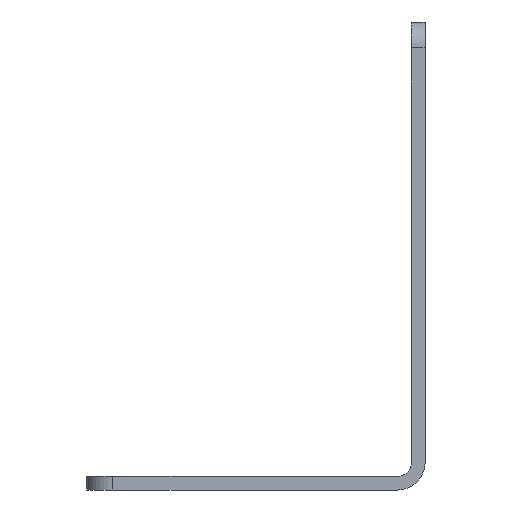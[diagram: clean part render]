
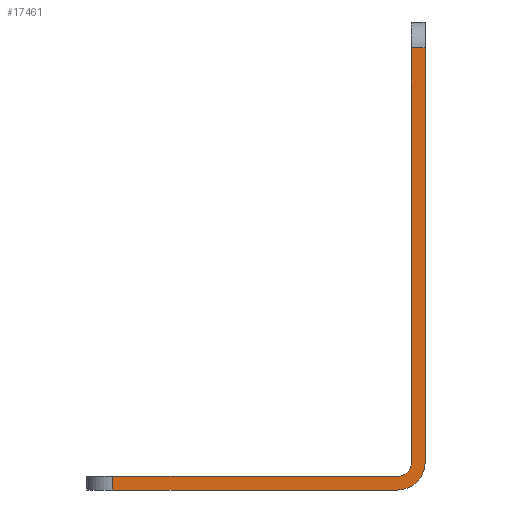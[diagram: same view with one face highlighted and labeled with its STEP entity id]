
A CAD part, left-side view. The second image highlights one B-rep face of the part: STEP entity #17461.
In plain terms, the highlighted planar face has unit normal (-1, 0, 0).
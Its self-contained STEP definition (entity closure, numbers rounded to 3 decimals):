
#3873=CARTESIAN_POINT('',(-148.329,36.418,-1.82));
#3874=VERTEX_POINT('',#3873);
#3881=CARTESIAN_POINT('',(-148.329,36.418,94.));
#3882=VERTEX_POINT('',#3881);
#3883=CARTESIAN_POINT('',(-148.329,36.418,-1.82));
#3884=DIRECTION('',(0.,0.,1.));
#3885=VECTOR('',#3884,95.82);
#3886=LINE('',#3883,#3885);
#3887=EDGE_CURVE('',#3874,#3882,#3886,.T.);
#12422=CARTESIAN_POINT('',(-148.329,33.238,94.));
#12423=VERTEX_POINT('',#12422);
#12431=CARTESIAN_POINT('',(-148.329,33.238,-1.82));
#12432=VERTEX_POINT('',#12431);
#12433=CARTESIAN_POINT('',(-148.329,33.238,-1.82));
#12434=DIRECTION('',(-0.,0.,1.));
#12435=VECTOR('',#12434,95.82);
#12436=LINE('',#12433,#12435);
#12437=EDGE_CURVE('',#12432,#12423,#12436,.T.);
#17123=CARTESIAN_POINT('',(-148.329,105.418,-5.));
#17124=VERTEX_POINT('',#17123);
#17125=CARTESIAN_POINT('',(-148.329,39.598,-5.));
#17126=VERTEX_POINT('',#17125);
#17127=CARTESIAN_POINT('',(-148.329,105.418,-5.));
#17128=DIRECTION('',(0.,-1.,0.));
#17129=VECTOR('',#17128,65.82);
#17130=LINE('',#17127,#17129);
#17131=EDGE_CURVE('',#17124,#17126,#17130,.T.);
#17164=CARTESIAN_POINT('',(-148.329,105.418,-8.18));
#17165=VERTEX_POINT('',#17164);
#17173=CARTESIAN_POINT('',(-148.329,105.418,-8.18));
#17174=DIRECTION('',(0.,0.,1.));
#17175=VECTOR('',#17174,3.18);
#17176=LINE('',#17173,#17175);
#17177=EDGE_CURVE('',#17165,#17124,#17176,.T.);
#17199=CARTESIAN_POINT('',(-148.329,39.598,-8.18));
#17200=VERTEX_POINT('',#17199);
#17207=CARTESIAN_POINT('',(-148.329,105.418,-8.18));
#17208=DIRECTION('',(0.,-1.,0.));
#17209=VECTOR('',#17208,65.82);
#17210=LINE('',#17207,#17209);
#17211=EDGE_CURVE('',#17165,#17200,#17210,.T.);
#17223=CARTESIAN_POINT('',(-148.329,39.598,-1.82));
#17224=DIRECTION('',(1.,0.,-0.));
#17225=DIRECTION('',(0.,-0.,-1.));
#17226=AXIS2_PLACEMENT_3D('',#17223,#17224,#17225);
#17227=CIRCLE('',#17226,6.36);
#17228=EDGE_CURVE('',#12432,#17200,#17227,.T.);
#17428=CARTESIAN_POINT('',(-148.329,39.598,-1.82));
#17429=DIRECTION('',(-1.,-0.,0.));
#17430=DIRECTION('',(0.,-0.,-1.));
#17431=AXIS2_PLACEMENT_3D('',#17428,#17429,#17430);
#17432=CIRCLE('',#17431,3.18);
#17433=EDGE_CURVE('',#17126,#3874,#17432,.T.);
#17441=CARTESIAN_POINT('',(-148.329,111.418,-3.18));
#17442=DIRECTION('',(1.,0.,0.));
#17443=DIRECTION('',(0.,-0.,-1.));
#17444=AXIS2_PLACEMENT_3D('',#17441,#17442,#17443);
#17445=PLANE('',#17444);
#17446=ORIENTED_EDGE('',*,*,#3887,.F.);
#17447=ORIENTED_EDGE('',*,*,#17433,.F.);
#17448=ORIENTED_EDGE('',*,*,#17131,.F.);
#17449=ORIENTED_EDGE('',*,*,#17177,.F.);
#17450=ORIENTED_EDGE('',*,*,#17211,.T.);
#17451=ORIENTED_EDGE('',*,*,#17228,.F.);
#17452=ORIENTED_EDGE('',*,*,#12437,.T.);
#17453=CARTESIAN_POINT('',(-148.329,36.418,94.));
#17454=DIRECTION('',(0.,-1.,0.));
#17455=VECTOR('',#17454,3.18);
#17456=LINE('',#17453,#17455);
#17457=EDGE_CURVE('',#3882,#12423,#17456,.T.);
#17458=ORIENTED_EDGE('',*,*,#17457,.F.);
#17459=EDGE_LOOP('',(#17446,#17447,#17448,#17449,#17450,#17451,#17452,#17458));
#17460=FACE_BOUND('',#17459,.T.);
#17461=ADVANCED_FACE('',(#17460),#17445,.F.);
